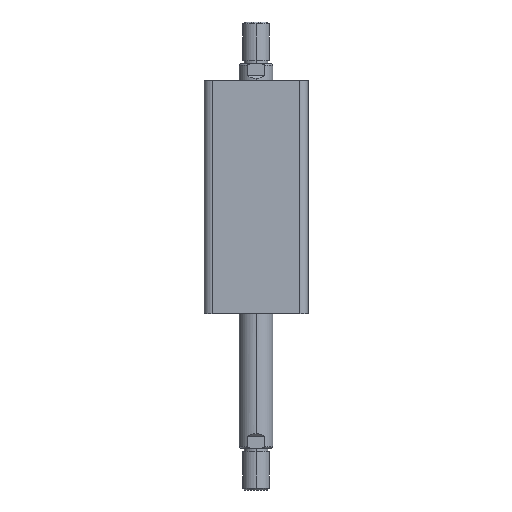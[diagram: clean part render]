
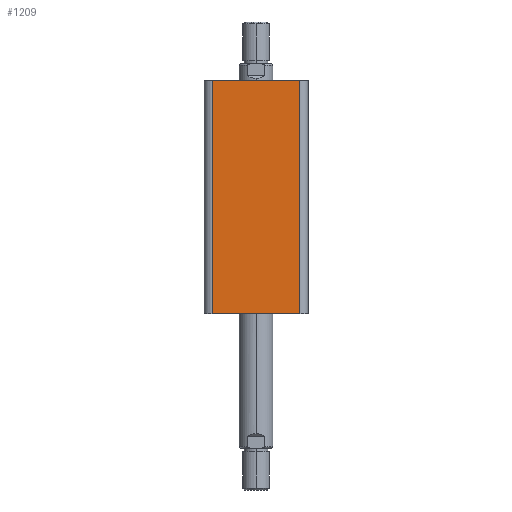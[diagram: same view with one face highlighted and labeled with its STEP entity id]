
A CAD part, left-side view. The second image highlights one B-rep face of the part: STEP entity #1209.
In plain terms, the highlighted planar face has unit normal (-1, 0, 0).
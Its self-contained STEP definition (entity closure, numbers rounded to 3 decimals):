
#250 = ORIENTED_EDGE ( 'NONE', *, *, #3328, .T. ) ;
#251 = ORIENTED_EDGE ( 'NONE', *, *, #3327, .F. ) ;
#474 = EDGE_LOOP ( 'NONE', ( #2970, #2969, #251, #250 ) ) ;
#1209 = ADVANCED_FACE ( 'NONE', ( #2698 ), #1947, .F. ) ;
#1449 = LINE ( 'NONE', #2478, #1450 ) ;
#1450 = VECTOR ( 'NONE', #2479, 1000. ) ;
#1451 = LINE ( 'NONE', #2481, #1455 ) ;
#1452 = LINE ( 'NONE', #2467, #1453 ) ;
#1453 = VECTOR ( 'NONE', #2480, 1000. ) ;
#1454 = LINE ( 'NONE', #2483, #1457 ) ;
#1455 = VECTOR ( 'NONE', #2482, 1000. ) ;
#1457 = VECTOR ( 'NONE', #2484, 1000. ) ;
#1939 = CARTESIAN_POINT ( 'NONE',  ( -31., 31., 139. ) ) ;
#1947 = PLANE ( 'NONE',  #2240 ) ;
#1949 = DIRECTION ( 'NONE',  ( 1., 0., 0. ) ) ;
#1950 = DIRECTION ( 'NONE',  ( 0., 1., 0. ) ) ;
#2110 = CARTESIAN_POINT ( 'NONE',  ( -31., -26., 139. ) ) ;
#2112 = CARTESIAN_POINT ( 'NONE',  ( -31., -26., 0. ) ) ;
#2167 = CARTESIAN_POINT ( 'NONE',  ( -31., 26., 0. ) ) ;
#2187 = CARTESIAN_POINT ( 'NONE',  ( -31., 26., 139. ) ) ;
#2240 = AXIS2_PLACEMENT_3D ( 'NONE', #1939, #1949, #1950 ) ;
#2467 = CARTESIAN_POINT ( 'NONE',  ( -31., -26., 139. ) ) ;
#2478 = CARTESIAN_POINT ( 'NONE',  ( -31., 31., 0. ) ) ;
#2479 = DIRECTION ( 'NONE',  ( 0., -1., 0. ) ) ;
#2480 = DIRECTION ( 'NONE',  ( 0., 0., 1. ) ) ;
#2481 = CARTESIAN_POINT ( 'NONE',  ( -31., 31., 139. ) ) ;
#2482 = DIRECTION ( 'NONE',  ( 0., -1., 0. ) ) ;
#2483 = CARTESIAN_POINT ( 'NONE',  ( -31., 26., 139. ) ) ;
#2484 = DIRECTION ( 'NONE',  ( 0., 0., -1. ) ) ;
#2698 = FACE_OUTER_BOUND ( 'NONE', #474, .T. ) ;
#2969 = ORIENTED_EDGE ( 'NONE', *, *, #3326, .T. ) ;
#2970 = ORIENTED_EDGE ( 'NONE', *, *, #3325, .T. ) ;
#2996 = VERTEX_POINT ( 'NONE', #2110 ) ;
#2997 = VERTEX_POINT ( 'NONE', #2112 ) ;
#3157 = VERTEX_POINT ( 'NONE', #2167 ) ;
#3177 = VERTEX_POINT ( 'NONE', #2187 ) ;
#3325 = EDGE_CURVE ( 'NONE', #3157, #2997, #1449, .T. ) ;
#3326 = EDGE_CURVE ( 'NONE', #2997, #2996, #1452, .T. ) ;
#3327 = EDGE_CURVE ( 'NONE', #3177, #2996, #1451, .T. ) ;
#3328 = EDGE_CURVE ( 'NONE', #3177, #3157, #1454, .T. ) ;
